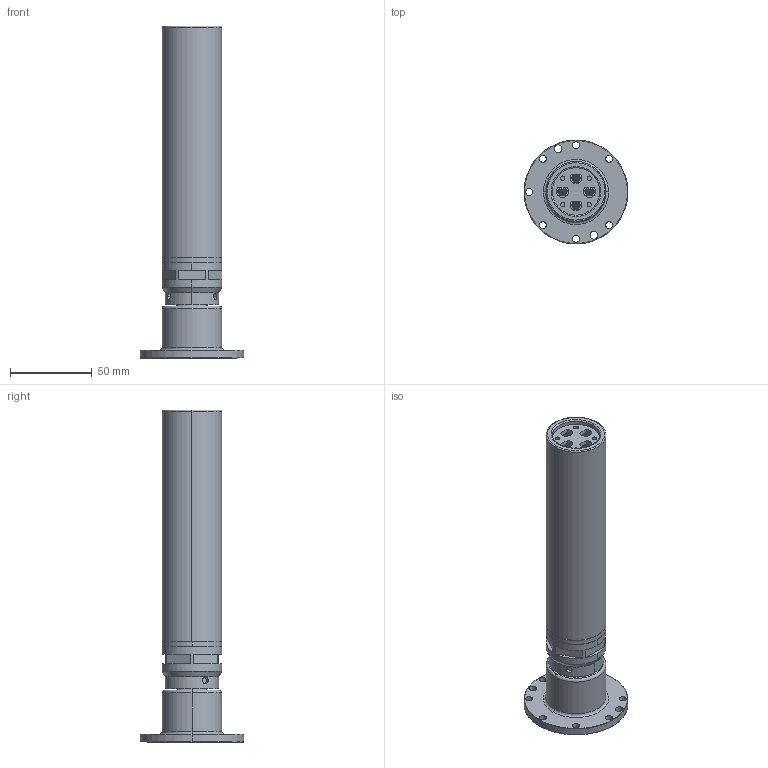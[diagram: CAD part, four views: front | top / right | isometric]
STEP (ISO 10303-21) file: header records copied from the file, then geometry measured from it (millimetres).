
FILE_DESCRIPTION (( 'STEP AP203' ), '1' );
FILE_NAME ('1007935.STEP', '2017-06-23T12:10:58', ( '' ), ( '' ), 'SwSTEP 2.0', 'SolidWorks 2014', '' );
FILE_SCHEMA (( 'CONFIG_CONTROL_DESIGN' ));
Length unit declared in the file: inch
Products named in the file (1): 1007935
Bounding box: 63.49 x 63.49 x 202.82 mm (x, y, z)
Volume: 213155 mm3; surface area: 35587.5 mm2
Topology: 1 solids, 1 shells, 1334 faces, 2725 edges, 1804 vertices
Faces by surface type: cylinder 857, plane 439, cone 22, bspline 16
Entity records: 37276 total; most frequent: CARTESIAN_POINT 7202, DIRECTION 7096, ORIENTED_EDGE 5450, AXIS2_PLACEMENT_3D 3080, EDGE_CURVE 2725, VERTEX_POINT 1804, EDGE_LOOP 1765, CIRCLE 1761
